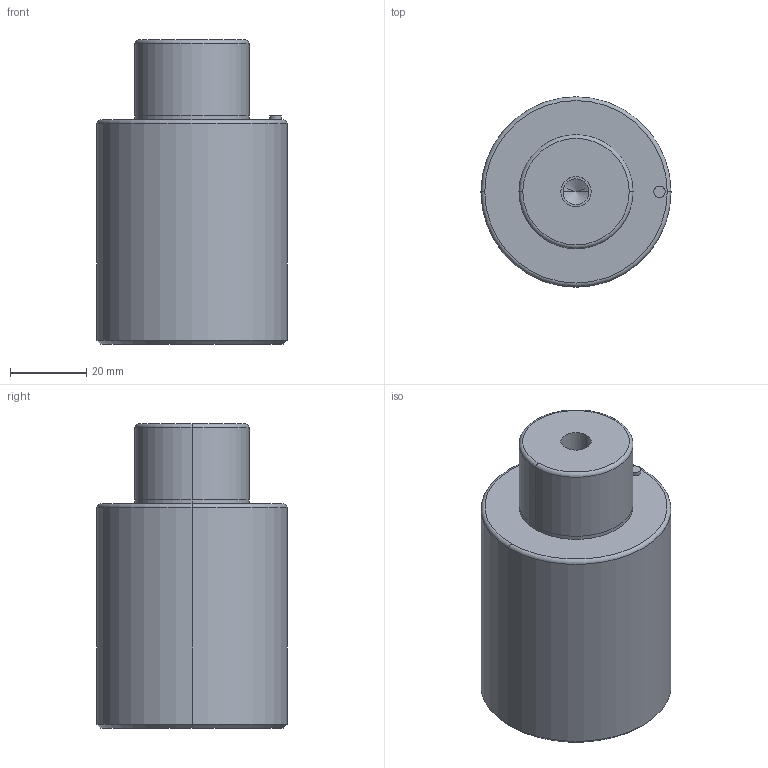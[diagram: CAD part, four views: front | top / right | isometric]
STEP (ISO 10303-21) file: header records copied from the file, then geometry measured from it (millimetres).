
FILE_DESCRIPTION(/* description */ (''),/* implementation_level */ '2;1');
FILE_NAME(/* name */ '3d_gsc50-20_03833_r00.stp',/* time_stamp */ '2011-01-10T14:15:21+09:00',/* author */ ('MISUMI'),/* organization */ (''),/* preprocessor_version */ 'ST-DEVELOPER v11',/* originating_system */ 'UGS - NX 5.0',/* authorisation */ '');
FILE_SCHEMA (('CONFIG_CONTROL_DESIGN'));
Length unit declared in the file: millimetre
Products named in the file (1): 3d_gsc50-20_03833_r00
Bounding box: 50 x 50 x 80 mm (x, y, z)
Volume: 128578.4 mm3; surface area: 15866.5 mm2
Topology: 1 solids, 1 shells, 32 faces, 66 edges, 38 vertices
Faces by surface type: cylinder 16, cone 6, plane 6, torus 4
Entity records: 912 total; most frequent: DIRECTION 168, CARTESIAN_POINT 133, ORIENTED_EDGE 124, AXIS2_PLACEMENT_3D 73, EDGE_CURVE 62, CIRCLE 40, EDGE_LOOP 38, VERTEX_POINT 38
